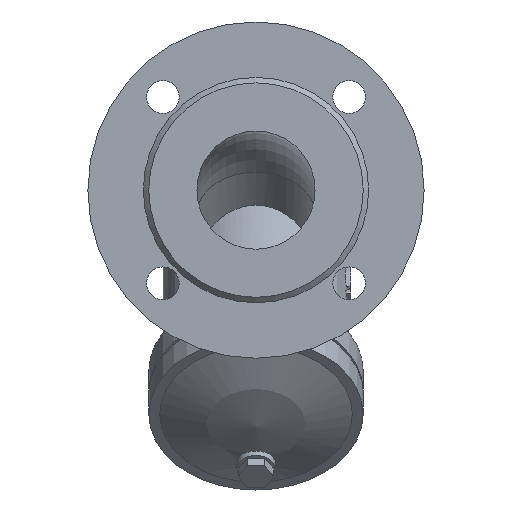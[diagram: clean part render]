
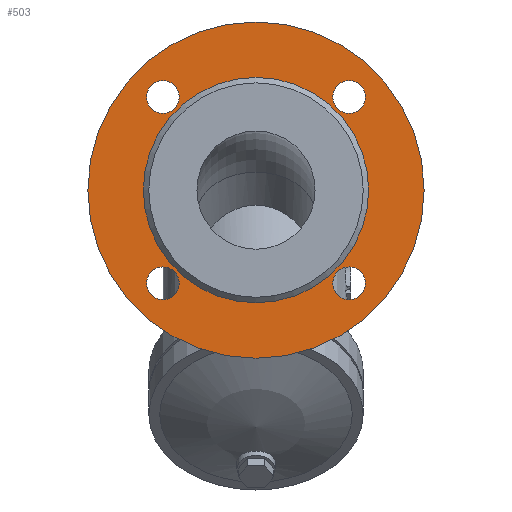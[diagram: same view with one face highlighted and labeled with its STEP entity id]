
A CAD part, front view. The second image highlights one B-rep face of the part: STEP entity #503.
In plain terms, the highlighted planar face has unit normal (0, -1, 0).
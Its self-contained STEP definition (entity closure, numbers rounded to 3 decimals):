
#503=ADVANCED_FACE('',(#1155,#1157,#1159,#1161,#1163,#1165),#1167,.T.);
#1155=FACE_BOUND('',#1156,.T.);
#1156=EDGE_LOOP('',(#1588));
#1157=FACE_BOUND('',#1158,.T.);
#1158=EDGE_LOOP('',(#1589));
#1159=FACE_BOUND('',#1160,.T.);
#1160=EDGE_LOOP('',(#1590));
#1161=FACE_BOUND('',#1162,.T.);
#1162=EDGE_LOOP('',(#1591));
#1163=FACE_BOUND('',#1164,.T.);
#1164=EDGE_LOOP('',(#1592));
#1165=FACE_BOUND('',#1166,.T.);
#1166=EDGE_LOOP('',(#1593));
#1167=PLANE('',#1168);
#1168=AXIS2_PLACEMENT_3D('',#1169,#1170,#1171);
#1169=CARTESIAN_POINT('',(0.,-142.,0.));
#1170=DIRECTION('',(0.,-1.,0.));
#1171=DIRECTION('',(0.,0.,1.));
#1588=ORIENTED_EDGE('',*,*,#1764,.F.);
#1589=ORIENTED_EDGE('',*,*,#1768,.T.);
#1590=ORIENTED_EDGE('',*,*,#1767,.T.);
#1591=ORIENTED_EDGE('',*,*,#1766,.T.);
#1592=ORIENTED_EDGE('',*,*,#1775,.T.);
#1593=ORIENTED_EDGE('',*,*,#1765,.T.);
#1764=EDGE_CURVE('',#1973,#1973,#1974,.T.);
#1765=EDGE_CURVE('',#1975,#1975,#1976,.F.);
#1766=EDGE_CURVE('',#1977,#1977,#1978,.F.);
#1767=EDGE_CURVE('',#1979,#1979,#1980,.F.);
#1768=EDGE_CURVE('',#1981,#1981,#1982,.F.);
#1775=EDGE_CURVE('',#1995,#1995,#1996,.T.);
#1973=VERTEX_POINT('',#3247);
#1974=CIRCLE('',#3248,92.5);
#1975=VERTEX_POINT('',#3252);
#1976=CIRCLE('',#3253,9.);
#1977=VERTEX_POINT('',#3257);
#1978=CIRCLE('',#3258,9.);
#1979=VERTEX_POINT('',#3262);
#1980=CIRCLE('',#3263,9.);
#1981=VERTEX_POINT('',#3267);
#1982=CIRCLE('',#3268,9.);
#1995=VERTEX_POINT('',#3302);
#1996=CIRCLE('',#3303,62.);
#3247=CARTESIAN_POINT('',(0.,-142.,92.5));
#3248=AXIS2_PLACEMENT_3D('',#3249,#3250,#3251);
#3249=CARTESIAN_POINT('',(0.,-142.,0.));
#3250=DIRECTION('',(0.,1.,0.));
#3251=DIRECTION('',(0.,0.,1.));
#3252=CARTESIAN_POINT('',(-42.265,-142.,51.265));
#3253=AXIS2_PLACEMENT_3D('',#3254,#3255,#3256);
#3254=CARTESIAN_POINT('',(-51.265,-142.,51.265));
#3255=DIRECTION('',(0.,-1.,0.));
#3256=DIRECTION('',(1.,0.,0.));
#3257=CARTESIAN_POINT('',(-51.265,-142.,-42.265));
#3258=AXIS2_PLACEMENT_3D('',#3259,#3260,#3261);
#3259=CARTESIAN_POINT('',(-51.265,-142.,-51.265));
#3260=DIRECTION('',(0.,-1.,0.));
#3261=DIRECTION('',(0.,0.,1.));
#3262=CARTESIAN_POINT('',(42.265,-142.,-51.265));
#3263=AXIS2_PLACEMENT_3D('',#3264,#3265,#3266);
#3264=CARTESIAN_POINT('',(51.265,-142.,-51.265));
#3265=DIRECTION('',(0.,-1.,0.));
#3266=DIRECTION('',(-1.,0.,0.));
#3267=CARTESIAN_POINT('',(51.265,-142.,42.265));
#3268=AXIS2_PLACEMENT_3D('',#3269,#3270,#3271);
#3269=CARTESIAN_POINT('',(51.265,-142.,51.265));
#3270=DIRECTION('',(0.,-1.,0.));
#3271=DIRECTION('',(0.,0.,-1.));
#3302=CARTESIAN_POINT('',(0.,-142.,62.));
#3303=AXIS2_PLACEMENT_3D('',#3304,#3305,#3306);
#3304=CARTESIAN_POINT('',(0.,-142.,0.));
#3305=DIRECTION('',(0.,1.,0.));
#3306=DIRECTION('',(0.,0.,1.));
